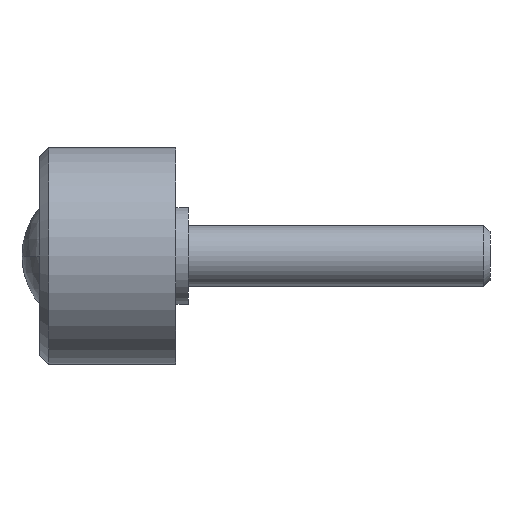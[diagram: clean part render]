
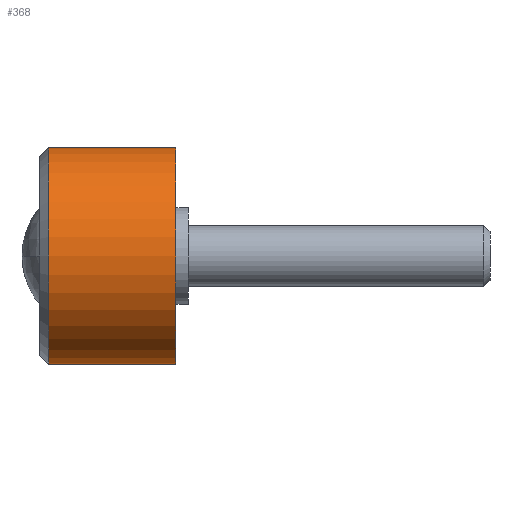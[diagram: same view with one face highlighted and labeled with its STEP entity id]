
A CAD part, left-side view. The second image highlights one B-rep face of the part: STEP entity #368.
In plain terms, the highlighted cylindrical face has radius 18 mm (diameter 36 mm), a partial arc.
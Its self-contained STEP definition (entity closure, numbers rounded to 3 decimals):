
#3 = VECTOR ( 'NONE', #246, 1000. ) ;
#26 = ORIENTED_EDGE ( 'NONE', *, *, #202, .F. ) ;
#29 = CARTESIAN_POINT ( 'NONE',  ( 0., 0., 18. ) ) ;
#32 = CARTESIAN_POINT ( 'NONE',  ( 0., 0., 0. ) ) ;
#34 = EDGE_CURVE ( 'NONE', #147, #423, #121, .T. ) ;
#41 = CARTESIAN_POINT ( 'NONE',  ( 0., 21.1, 18. ) ) ;
#44 = VECTOR ( 'NONE', #71, 1000. ) ;
#68 = CIRCLE ( 'NONE', #245, 18. ) ;
#71 = DIRECTION ( 'NONE',  ( 0., -1., 0. ) ) ;
#119 = AXIS2_PLACEMENT_3D ( 'NONE', #32, #501, #156 ) ;
#121 = CIRCLE ( 'NONE', #264, 18. ) ;
#145 = EDGE_LOOP ( 'NONE', ( #26, #196, #764, #284 ) ) ;
#147 = VERTEX_POINT ( 'NONE', #398 ) ;
#156 = DIRECTION ( 'NONE',  ( 0., 0., -1. ) ) ;
#191 = FACE_OUTER_BOUND ( 'NONE', #145, .T. ) ;
#196 = ORIENTED_EDGE ( 'NONE', *, *, #372, .T. ) ;
#202 = EDGE_CURVE ( 'NONE', #322, #147, #559, .T. ) ;
#245 = AXIS2_PLACEMENT_3D ( 'NONE', #448, #695, #671 ) ;
#246 = DIRECTION ( 'NONE',  ( 0., -1., 0. ) ) ;
#261 = CYLINDRICAL_SURFACE ( 'NONE', #119, 18. ) ;
#264 = AXIS2_PLACEMENT_3D ( 'NONE', #342, #707, #747 ) ;
#284 = ORIENTED_EDGE ( 'NONE', *, *, #34, .F. ) ;
#297 = CARTESIAN_POINT ( 'NONE',  ( 0., 0., -18. ) ) ;
#322 = VERTEX_POINT ( 'NONE', #41 ) ;
#327 = LINE ( 'NONE', #569, #44 ) ;
#342 = CARTESIAN_POINT ( 'NONE',  ( 0., 0., 0. ) ) ;
#368 = ADVANCED_FACE ( 'NONE', ( #191 ), #261, .T. ) ;
#372 = EDGE_CURVE ( 'NONE', #322, #536, #68, .T. ) ;
#398 = CARTESIAN_POINT ( 'NONE',  ( 0., 0., 18. ) ) ;
#423 = VERTEX_POINT ( 'NONE', #297 ) ;
#448 = CARTESIAN_POINT ( 'NONE',  ( 0., 21.1, 0. ) ) ;
#501 = DIRECTION ( 'NONE',  ( 0., -1., 0. ) ) ;
#536 = VERTEX_POINT ( 'NONE', #584 ) ;
#559 = LINE ( 'NONE', #29, #3 ) ;
#569 = CARTESIAN_POINT ( 'NONE',  ( 0., 0., -18. ) ) ;
#584 = CARTESIAN_POINT ( 'NONE',  ( 0., 21.1, -18. ) ) ;
#660 = EDGE_CURVE ( 'NONE', #536, #423, #327, .T. ) ;
#671 = DIRECTION ( 'NONE',  ( 0., 0., 1. ) ) ;
#695 = DIRECTION ( 'NONE',  ( 0., -1., 0. ) ) ;
#707 = DIRECTION ( 'NONE',  ( 0., -1., 0. ) ) ;
#747 = DIRECTION ( 'NONE',  ( 0., 0., -1. ) ) ;
#764 = ORIENTED_EDGE ( 'NONE', *, *, #660, .T. ) ;
